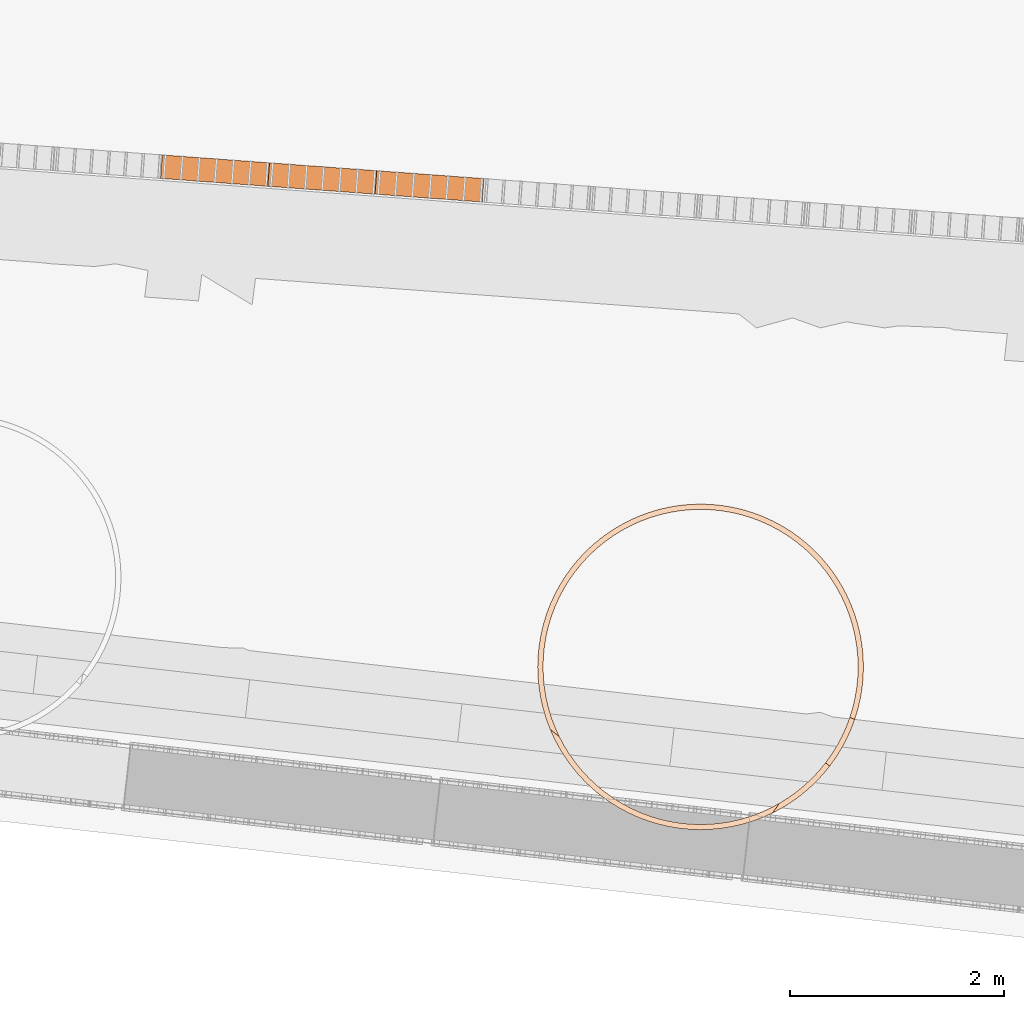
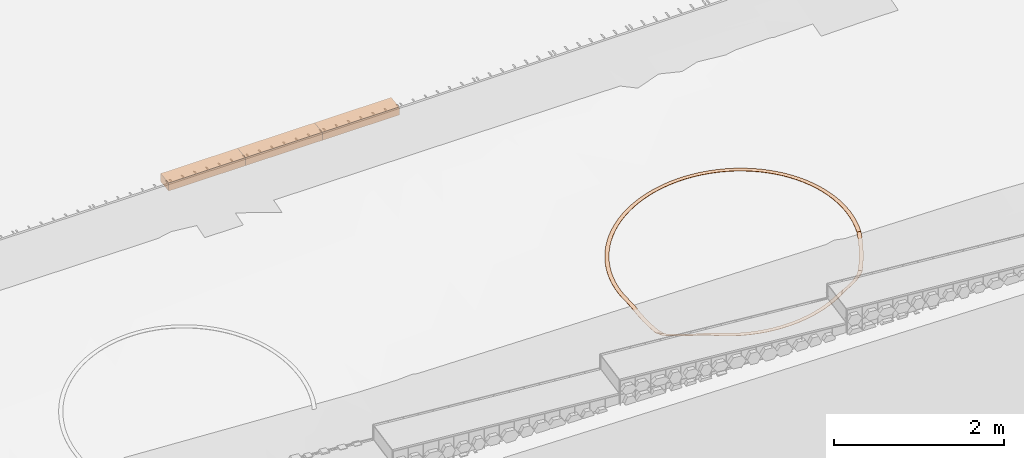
# Not in any storey, part 26 of 33: 3 proxies, 1 geographic element.
"""IFC4 model written with IfcOpenShell, lengths in metres."""

import ifcopenshell
import ifcopenshell.guid

model = None  # the IFC model being written
_history = None  # IfcOwnerHistory: only IFC2X3 demands one
_inside = {}  # id of a spatial element -> (the spatial element, [elements in it])
_under = {}  # id of a project, library or spatial element -> (it, [spatial elements below it])
_declared = {}  # id of a project -> (the project, [libraries it declares])
_typed = {}  # id of a type object -> (the type object, [elements of that type])
_made_of = {}  # id of a material, layer set ... -> (it, [elements and type objects made of it])


def new_model(schema):
    """Start an empty IFC model of exactly this schema.

    Asked for "IFC4X3", IfcOpenShell would pick the latest addendum, in which some entities
    have other attributes; the version numbers below select the first issue.
    IFC2X3 requires an IfcOwnerHistory on every rooted entity: one is made here for all.
    """
    global model, _history
    if schema == "IFC4X3":
        model = ifcopenshell.file(schema_version=(4, 3, 0, 0))
    else:
        model = ifcopenshell.file(schema=schema)
    _inside.clear()
    _under.clear()
    _declared.clear()
    _typed.clear()
    _made_of.clear()
    _history = None
    if model.schema == "IFC2X3":
        org = make("IfcOrganization", Name="unknown")
        user = make(
            "IfcPersonAndOrganization",
            ThePerson=make("IfcPerson", FamilyName="unknown"),
            TheOrganization=org,
        )
        app = make(
            "IfcApplication",
            ApplicationDeveloper=org,
            Version="unknown",
            ApplicationFullName="unknown",
            ApplicationIdentifier="unknown",
        )
        _history = make(
            "IfcOwnerHistory",
            OwningUser=user,
            OwningApplication=app,
            ChangeAction="ADDED",
            CreationDate=0,
        )
    return model


def make(cls, **values):
    """One entity of the class cls with the attributes given. An attribute that is None is left unset."""
    return model.create_entity(
        cls, **{name: value for name, value in values.items() if value is not None}
    )


def rooted(cls, **values):
    """An entity with a GlobalId (a new one), such as an element, a storey or a relation."""
    return make(cls, GlobalId=ifcopenshell.guid.new(), OwnerHistory=_history, **values)


def si_unit(unit_type, name, prefix=None):
    """IfcSIUnit, for example si_unit("LENGTHUNIT", "METRE", prefix="MILLI")."""
    return make("IfcSIUnit", UnitType=unit_type, Prefix=prefix, Name=name)


def assignment(units):
    """IfcUnitAssignment: the units of a project."""
    return None if units is None else make("IfcUnitAssignment", Units=units)


def point(xyz):
    """IfcCartesianPoint."""
    return None if xyz is None else make("IfcCartesianPoint", Coordinates=xyz)


def direction(xyz):
    """IfcDirection."""
    return None if xyz is None else make("IfcDirection", DirectionRatios=xyz)


def frame(location, z_axis=None, x_axis=None):
    """IfcAxis2Placement3D, a coordinate frame: its origin and axes. An axis left out is left unset."""
    return make(
        "IfcAxis2Placement3D",
        Location=point(location),
        Axis=direction(z_axis),
        RefDirection=direction(x_axis),
    )


def origin_with_axes():
    """The frame at (0, 0, 0) with the z axis (0, 0, 1) and the x axis (1, 0, 0) written out."""
    return frame((0.0, 0.0, 0.0), z_axis=(0.0, 0.0, 1.0), x_axis=(1.0, 0.0, 0.0))


def place(relative_to, where):
    """IfcLocalPlacement: puts the frame where relative to a parent placement (None: the world)."""
    return make(
        "IfcLocalPlacement", PlacementRelTo=relative_to, RelativePlacement=where
    )


def context(
    kind, dimensions, precision=None, world=None, true_north=None, identifier=None
):
    """IfcGeometricRepresentationContext, for example the 3D "Model" context."""
    return make(
        "IfcGeometricRepresentationContext",
        ContextIdentifier=identifier,
        ContextType=kind,
        CoordinateSpaceDimension=dimensions,
        Precision=precision,
        WorldCoordinateSystem=world,
        TrueNorth=true_north,
    )


def subcontext(parent, identifier, kind, view, scale=None):
    """IfcGeometricRepresentationSubContext, for example "Body" below "Model"."""
    return make(
        "IfcGeometricRepresentationSubContext",
        ContextIdentifier=identifier,
        ContextType=kind,
        ParentContext=parent,
        TargetScale=scale,
        TargetView=view,
    )


def project(units=None, contexts=None):
    """IfcProject with its units and contexts."""
    return rooted(
        "IfcProject",
        Name="project",
        RepresentationContexts=contexts,
        UnitsInContext=assignment(units),
    )


def spatial(cls, under=None, at=None, **own):
    """A site, building, storey or space (cls), placed at a placement, below another one or the project."""
    s = rooted(cls, ObjectPlacement=at, **own)
    if under is not None:
        _under.setdefault(under.id(), (under, []))[1].append(s)
    return s


def point_list(points):
    """IfcCartesianPointList2D or 3D."""
    cls = (
        "IfcCartesianPointList2D" if len(points[0]) == 2 else "IfcCartesianPointList3D"
    )
    return make(cls, CoordList=points)


def polygons(points, faces, closed=None, point_numbers=None):
    """IfcPolygonalFaceSet: a face is its outer loop, then its inner loops; points numbered from 1."""
    made = []
    for loops in faces:
        if len(loops) == 1:
            made.append(make("IfcIndexedPolygonalFace", CoordIndex=loops[0]))
        else:
            made.append(
                make(
                    "IfcIndexedPolygonalFaceWithVoids",
                    CoordIndex=loops[0],
                    InnerCoordIndices=loops[1:],
                )
            )
    return make(
        "IfcPolygonalFaceSet",
        Coordinates=point_list(points),
        Closed=closed,
        Faces=made,
        PnIndex=point_numbers,
    )


def shape(context_of_items, identifier, shape_type, items):
    """IfcShapeRepresentation: the items that make up one representation, for example the "Body"."""
    return make(
        "IfcShapeRepresentation",
        ContextOfItems=context_of_items,
        RepresentationIdentifier=identifier,
        RepresentationType=shape_type,
        Items=items,
    )


def material(Name=None, Category=None):
    """IfcMaterial."""
    return make("IfcMaterial", Name=Name, Category=Category)


def made_of(thing, what):
    """Note that an element or type object is made of a material, layer set ...; save() writes the relation."""
    if what is not None:
        _made_of.setdefault(what.id(), (what, []))[1].append(thing)
    return thing


def element(
    cls,
    number,
    at=None,
    inside=None,
    cuts=None,
    type_object=None,
    material=None,
    context=None,
    identifier="Body",
    shape_type=None,
    held_by="IfcProductDefinitionShape",
    body=None,
    shapes=None,
    **own,
):
    """One element of the class cls, such as IfcWall. Its Tag is "e" and its number.

    at: its placement. inside: the storey or other place that contains it. cuts: it is an
    opening in that element (IfcRelVoidsElement). A single representation is given by context,
    identifier, shape_type and body (its items); several are given by shapes. held_by: the class
    of the entity that holds the representations. save() writes the other relations.
    """
    e = rooted(cls, Tag="e%d" % number, ObjectPlacement=at, **own)
    if body is not None:
        shapes = [shape(context, identifier, shape_type, body)]
    if shapes is not None:
        e.Representation = make(held_by, Representations=shapes)
    if inside is not None:
        _inside.setdefault(inside.id(), (inside, []))[1].append(e)
    if cuts is not None:
        rooted(
            "IfcRelVoidsElement", RelatingBuildingElement=cuts, RelatedOpeningElement=e
        )
    if type_object is not None:
        _typed.setdefault(type_object.id(), (type_object, []))[1].append(e)
    return made_of(e, material)


def aggregate(whole, parts):
    """IfcRelAggregates: a whole, such as a stair, and the parts it consists of."""
    return rooted("IfcRelAggregates", RelatingObject=whole, RelatedObjects=parts)


def save(model, path):
    """Write the relations noted so far, then the file.

    IfcRelAggregates (storeys below a building ...), IfcRelContainedInSpatialStructure (elements
    in a storey), IfcRelDefinesByType, IfcRelAssociatesMaterial and IfcRelDeclares: one each for
    every whole, place, type object, material and project.
    """
    for whole, parts in _under.values():
        aggregate(whole, parts)
    for where, things in _inside.values():
        rooted(
            "IfcRelContainedInSpatialStructure",
            RelatedElements=things,
            RelatingStructure=where,
        )
    for kind, things in _typed.values():
        rooted("IfcRelDefinesByType", RelatedObjects=things, RelatingType=kind)
    for what, things in _made_of.values():
        rooted("IfcRelAssociatesMaterial", RelatedObjects=things, RelatingMaterial=what)
    for by, libraries in _declared.values():
        rooted("IfcRelDeclares", RelatingContext=by, RelatedDefinitions=libraries)
    model.write(path)


model = new_model("IFC4")

# Units and contexts
model_context = context("Model", 3, precision=1e-05, world=origin_with_axes(), true_north=direction((0.0, 1.0)))
body_context = subcontext(model_context, "Body", "Model", "MODEL_VIEW")
ifc_project = project(units=[si_unit("LENGTHUNIT", "METRE"), si_unit("AREAUNIT", "SQUARE_METRE"), si_unit("VOLUMEUNIT", "CUBIC_METRE")], contexts=[model_context])

# Site
site_placement = place(None, origin_with_axes())
site = spatial("IfcSite", under=ifc_project, at=site_placement, Name="Lares · Rua das Mercês · artigo 4771")

# Proxies
ifc_material_1 = material(Name="Brita drenante", Category="stone")
proxy_1_placement = place(site_placement, frame((0.0, 0.0, 0.0), z_axis=(0.0, 0.0, 1.0), x_axis=(1.0, -1.03767253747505e-17, 0.0)))
element("IfcBuildingElementProxy", 1, at=proxy_1_placement, inside=site, material=ifc_material_1, Name="Acesso · dreno lateral raso · leito drenante", ObjectType="Acesso · dreno lateral raso · leito drenante", PredefinedType="USERDEFINED", context=body_context, shape_type="Tessellation", body=[
    polygons([(62.7145313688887, 2.04031172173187, 14.8471006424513), (62.7306585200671, 2.25971982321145, 14.8471006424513), (63.7347606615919, 2.18591531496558, 14.9054084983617), (63.7186335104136, 1.96650721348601, 14.9054084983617), (62.7145313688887, 2.04031172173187, 14.9621006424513), (62.7306585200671, 2.25971982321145, 14.9621006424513), (63.7347606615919, 2.18591531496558, 15.0204084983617), (63.7186335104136, 1.96650721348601, 15.0204084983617)], [[[4, 3, 2, 1]], [[5, 6, 7, 8]], [[1, 2, 6, 5]], [[2, 3, 7, 6]], [[3, 4, 8, 7]], [[4, 1, 5, 8]]]),
])
proxy_2_placement = place(site_placement, frame((0.0, 0.0, 0.0), z_axis=(0.0, 0.0, 1.0), x_axis=(1.0, -1.03767253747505e-17, 0.0)))
element("IfcBuildingElementProxy", 2, at=proxy_2_placement, inside=site, material=ifc_material_1, Name="Acesso · dreno lateral raso · leito drenante", ObjectType="Acesso · dreno lateral raso · leito drenante", PredefinedType="USERDEFINED", context=body_context, shape_type="Tessellation", body=[
    polygons([(63.7186335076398, 1.96650721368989, 14.9054084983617), (63.7347606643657, 2.1859153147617, 14.9054084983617), (64.7388567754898, 2.11211122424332, 14.9637160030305), (64.7227296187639, 1.89270312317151, 14.9637160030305), (63.7186335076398, 1.96650721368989, 15.0204084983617), (63.7347606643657, 2.1859153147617, 15.0204084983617), (64.7388567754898, 2.11211122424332, 15.0787160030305), (64.7227296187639, 1.89270312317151, 15.0787160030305)], [[[4, 3, 2, 1]], [[5, 6, 7, 8]], [[1, 2, 6, 5]], [[2, 3, 7, 6]], [[3, 4, 8, 7]], [[4, 1, 5, 8]]]),
])
proxy_3_placement = place(site_placement, frame((0.0, 0.0, 0.0), z_axis=(0.0, 0.0, 1.0), x_axis=(1.0, -1.03767253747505e-17, 0.0)))
element("IfcBuildingElementProxy", 3, at=proxy_3_placement, inside=site, material=ifc_material_1, Name="Acesso · dreno lateral raso · leito drenante", ObjectType="Acesso · dreno lateral raso · leito drenante", PredefinedType="USERDEFINED", context=body_context, shape_type="Tessellation", body=[
    polygons([(64.7227296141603, 1.89270312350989, 14.9637160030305), (64.7388567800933, 2.11211122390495, 14.9637160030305), (65.7429465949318, 2.03830755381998, 15.0220231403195), (65.7268194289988, 1.81889945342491, 15.0220231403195), (64.7227296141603, 1.89270312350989, 15.0787160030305), (64.7388567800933, 2.11211122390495, 15.0787160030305), (65.7429465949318, 2.03830755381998, 15.1370231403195), (65.7268194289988, 1.81889945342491, 15.1370231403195)], [[[4, 3, 2, 1]], [[5, 6, 7, 8]], [[1, 2, 6, 5]], [[2, 3, 7, 6]], [[3, 4, 8, 7]], [[4, 1, 5, 8]]]),
])

# Geographic element
ifc_material_2 = material(Name="Marcação de plantação · linha no terreno", Category="stone")
geographic_element_placement = place(site_placement, frame((0.0, 0.0, 0.0), z_axis=(0.0, 0.0, 1.0), x_axis=(1.0, -1.03767253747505e-17, 0.0)))
element("IfcGeographicElement", 4, at=geographic_element_placement, inside=site, material=ifc_material_2, Name="Marcação no solo · árvore indicativa 09", ObjectType="Marcação no solo · árvore indicativa 09", PredefinedType="USERDEFINED", context=body_context, shape_type="Tessellation", body=[
    polygons([(69.2462761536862, -2.53447641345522, 15.0896304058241), (69.2462761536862, -2.53447641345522, 15.0936304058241), (69.2962761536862, -2.53447641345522, 15.0936963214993), (69.2962761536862, -2.53447641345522, 15.0976963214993), (69.2431180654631, -2.43800679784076, 15.0949717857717), (69.2431180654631, -2.43800679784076, 15.0989717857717), (69.2930110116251, -2.43473664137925, 15.099218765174), (69.2930110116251, -2.43473664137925, 15.103218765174), (69.2336573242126, -2.34195027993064, 15.0997766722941), (69.2336573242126, -2.34195027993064, 15.1037766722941), (69.2832295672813, -2.33542397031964, 15.1041865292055), (69.2832295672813, -2.33542397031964, 15.1081865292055), (69.2179344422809, -2.24671818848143, 15.1040244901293), (69.2179344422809, -2.24671818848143, 15.1080244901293), (69.2669737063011, -2.23696367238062, 15.1085783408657), (69.2669737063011, -2.23696367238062, 15.1125783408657), (69.1960167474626, -2.152718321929, 15.1076970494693), (69.1960167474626, -2.152718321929, 15.1116970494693), (69.244313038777, -2.13977736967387, 15.1123753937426), (69.244313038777, -2.13977736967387, 15.1163753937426), (69.1679980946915, -2.06035320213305, 15.1107786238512), (69.1679980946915, -2.06035320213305, 15.1147786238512), (69.2153446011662, -2.0442812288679, 15.115561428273), (69.2153446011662, -2.0442812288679, 15.119561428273), (69.1339984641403, -1.97001835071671, 15.1132560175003), (69.1339984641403, -1.97001835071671, 15.1172560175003), (69.1801924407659, -1.95088417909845, 15.1181228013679), (69.1801924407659, -1.95088417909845, 15.1221228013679), (69.0941634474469, -1.88210059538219, 15.1151186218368), (69.0941634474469, -1.88210059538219, 15.1191186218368), (69.1390070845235, -1.85998616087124, 15.1200485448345), (69.1390070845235, -1.85998616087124, 15.1240485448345), (69.0486636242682, -1.79697641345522, 15.116358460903), (69.0486636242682, -1.79697641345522, 15.120358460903), (69.0919648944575, -1.77197641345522, 15.1213304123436), (69.0919648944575, -1.77197641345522, 15.1253304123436), (68.9976938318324, -1.7150103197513, 15.1169702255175), (68.9976938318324, -1.7150103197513, 15.1209702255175), (69.0392673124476, -1.68723180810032, 15.1219629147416), (69.0392673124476, -1.68723180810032, 15.1259629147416), (68.9414723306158, -1.63655330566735, 15.1169512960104), (68.9414723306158, -1.63655330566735, 15.1209512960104), (68.9811399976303, -1.60611523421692, 15.1219433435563), (68.9811399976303, -1.60611523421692, 15.1259433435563), (68.8802398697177, -1.56194133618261, 15.1163017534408), (68.8802398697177, -1.56194133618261, 15.1203017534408), (68.9178318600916, -1.52897404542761, 15.1212717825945), (68.9178318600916, -1.52897404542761, 15.1252717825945), (68.8142586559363, -1.49149391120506, 15.1150243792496), (68.8142586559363, -1.49149391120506, 15.1190243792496), (68.8496139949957, -1.45613857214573, 15.1199511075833), (68.8496139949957, -1.45613857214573, 15.1239511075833), (68.7438112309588, -1.42551269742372, 15.1131246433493), (68.7438112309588, -1.42551269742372, 15.1171246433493), (68.7767785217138, -1.38792070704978, 15.1179869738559), (68.7767785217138, -1.38792070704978, 15.1219869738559), (68.669199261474, -1.36428023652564, 15.1106106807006), (68.669199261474, -1.36428023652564, 15.1146106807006), (68.6996373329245, -1.32461256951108, 15.1153877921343), (68.6996373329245, -1.32461256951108, 15.1193877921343), (68.5907422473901, -1.30805873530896, 15.1074932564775), (68.5907422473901, -1.30805873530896, 15.1114932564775), (68.6185207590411, -1.26648525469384, 15.1121646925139), (68.6185207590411, -1.26648525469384, 15.1161646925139), (68.5087761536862, -1.25708894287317, 15.1037857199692), (68.5087761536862, -1.25708894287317, 15.1077857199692), (68.5337761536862, -1.21378767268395, 15.1083314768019), (68.5337761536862, -1.21378767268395, 15.1123314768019), (68.4236519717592, -1.2115891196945, 15.0995039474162), (68.4236519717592, -1.2115891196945, 15.1035039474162), (68.4457664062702, -1.16674548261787, 15.1039045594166), (68.4457664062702, -1.16674548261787, 15.1079045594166), (68.3357342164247, -1.17175410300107, 15.0946662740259), (68.3357342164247, -1.17175410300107, 15.0986662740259), (68.3548683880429, -1.1255601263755, 15.0989028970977), (68.3548683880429, -1.1255601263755, 15.1029028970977), (68.2453993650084, -1.13775447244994, 15.0892934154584), (68.2453993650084, -1.13775447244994, 15.0932934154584), (68.2614713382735, -1.09040796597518, 15.0933479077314), (68.2614713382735, -1.09040796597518, 15.0973479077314), (68.1530342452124, -1.10973581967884, 15.083408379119), (68.1530342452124, -1.10973581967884, 15.087408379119), (68.1659751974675, -1.06143952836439, 15.0872633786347), (68.1659751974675, -1.06143952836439, 15.0912633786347), (68.05903437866, -1.08781812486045, 15.0770363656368), (68.05903437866, -1.08781812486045, 15.0810363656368), (68.0687888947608, -1.03877886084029, 15.0806753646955), (68.0687888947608, -1.03877886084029, 15.0846753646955), (67.9638022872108, -1.07209524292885, 15.0702046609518), (67.9638022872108, -1.07209524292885, 15.0742046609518), (67.9703285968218, -1.02252299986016, 15.0736120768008), (67.9703285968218, -1.02252299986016, 15.0776120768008), (67.8677457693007, -1.06263450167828, 15.0629425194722), (67.8677457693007, -1.06263450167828, 15.0669425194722), (67.8710159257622, -1.01274155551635, 15.0661037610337), (67.8710159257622, -1.01274155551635, 15.0701037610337), (67.7712761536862, -1.05947641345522, 15.0552810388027), (67.7712761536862, -1.05947641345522, 15.0592810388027), (67.7712761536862, -1.00947641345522, 15.0581825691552), (67.7712761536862, -1.00947641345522, 15.0621825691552), (67.6748065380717, -1.06263450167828, 15.0472530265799), (67.6748065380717, -1.06263450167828, 15.0512530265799), (67.6715363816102, -1.01274155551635, 15.0498824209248), (67.6715363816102, -1.01274155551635, 15.0538824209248), (67.5787500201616, -1.07209524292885, 15.0388928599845), (67.5787500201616, -1.07209524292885, 15.0428928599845), (67.5722237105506, -1.02252299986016, 15.0412388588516), (67.5722237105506, -1.02252299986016, 15.0452388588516), (67.4835179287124, -1.08781812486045, 15.0302363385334), (67.4835179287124, -1.08781812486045, 15.0342363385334), (67.4737634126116, -1.03877886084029, 15.0322888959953), (67.4737634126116, -1.03877886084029, 15.0362888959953), (67.38951806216, -1.10973581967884, 15.0213205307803), (67.38951806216, -1.10973581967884, 15.0253205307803), (67.3765771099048, -1.06143952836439, 15.023070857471), (67.3765771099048, -1.06143952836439, 15.027070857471), (67.297152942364, -1.13775447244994, 15.012183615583), (67.297152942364, -1.13775447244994, 15.0161836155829), (67.2810809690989, -1.09040796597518, 15.0136242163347), (67.2810809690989, -1.09040796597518, 15.0176242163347), (67.2068180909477, -1.17175410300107, 15.0028647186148), (67.2068180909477, -1.17175410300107, 15.0068647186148), (67.1876839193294, -1.1255601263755, 15.0039894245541), (67.1876839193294, -1.1255601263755, 15.0079894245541), (67.1189003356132, -1.2115891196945, 14.9934037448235), (67.1189003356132, -1.2115891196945, 14.9974037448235), (67.0967859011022, -1.16674548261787, 14.9942077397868), (67.0967859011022, -1.16674548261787, 14.9982077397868), (67.0337761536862, -1.25708894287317, 14.9838412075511), (67.0337761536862, -1.25708894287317, 14.9878412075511), (67.0087761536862, -1.21378767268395, 14.9843210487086), (67.0087761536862, -1.21378767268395, 14.9883210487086), (66.9518100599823, -1.30805873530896, 14.9742180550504), (66.9518100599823, -1.30805873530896, 14.9782180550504), (66.9240315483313, -1.26648525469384, 14.9743716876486), (66.9240315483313, -1.26648525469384, 14.9783716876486), (66.8733530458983, -1.36428023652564, 14.9645754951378), (66.8733530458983, -1.36428023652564, 14.9685754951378), (66.8429149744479, -1.32461256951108, 14.9644022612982), (66.8429149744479, -1.32461256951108, 14.9684022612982), (66.7987410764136, -1.42551269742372, 14.9549548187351), (66.7987410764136, -1.42551269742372, 14.9589548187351), (66.7657737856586, -1.38792070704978, 14.9544554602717), (66.7657737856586, -1.38792070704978, 14.9584554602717), (66.728293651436, -1.49149391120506, 14.9453972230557), (66.728293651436, -1.49149391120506, 14.9493972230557), (66.6929383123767, -1.45613857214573, 14.9445738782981), (66.6929383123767, -1.45613857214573, 14.9485738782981), (66.6623124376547, -1.56194133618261, 14.9359436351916), (66.6623124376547, -1.56194133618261, 14.9399436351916), (66.6247204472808, -1.52897404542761, 14.9347998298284), (66.6247204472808, -1.52897404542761, 14.9387998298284), (66.6010799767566, -1.63655330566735, 14.9266345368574), (66.6010799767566, -1.63655330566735, 14.9306345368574), (66.5614123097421, -1.60611523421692, 14.9251751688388), (66.5614123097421, -1.60611523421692, 14.9291751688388), (66.5448584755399, -1.7150103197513, 14.9175097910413), (66.5448584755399, -1.7150103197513, 14.9215097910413), (66.5032849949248, -1.68723180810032, 14.9157411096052), (66.5032849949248, -1.68723180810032, 14.9197411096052), (66.4938886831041, -1.79697641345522, 14.9086084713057), (66.4938886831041, -1.79697641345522, 14.9126084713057), (66.4505874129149, -1.77197641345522, 14.9065380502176), (66.4505874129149, -1.77197641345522, 14.9105380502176), (66.4483888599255, -1.88210059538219, 14.8999686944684), (66.4483888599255, -1.88210059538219, 14.9039686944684), (66.4035452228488, -1.85998616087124, 14.8976053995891), (66.4035452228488, -1.85998616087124, 14.9016053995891), (66.408553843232, -1.97001835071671, 14.89162745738), (66.408553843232, -1.97001835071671, 14.89562745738), (66.3623598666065, -1.95088417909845, 14.8889814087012), (66.3623598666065, -1.95088417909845, 14.8929814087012), (66.3745542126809, -2.06035320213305, 14.8836204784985), (66.3745542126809, -2.06035320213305, 14.8876204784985), (66.3272077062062, -2.04428122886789, 14.8807030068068), (66.3272077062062, -2.04428122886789, 14.8847030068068), (66.3465355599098, -2.152718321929, 14.8759820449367), (66.3465355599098, -2.152718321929, 14.8799820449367), (66.2982392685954, -2.13977736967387, 14.8728056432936), (66.2982392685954, -2.13977736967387, 14.8768056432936), (66.3246178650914, -2.24671818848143, 14.8687448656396), (66.3246178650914, -2.24671818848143, 14.8727448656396), (66.2755786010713, -2.23696367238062, 14.8653231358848), (66.2755786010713, -2.23696367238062, 14.8693231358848), (66.3088949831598, -2.34195027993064, 14.8619399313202), (66.3088949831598, -2.34195027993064, 14.8659399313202), (66.2593227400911, -2.33542397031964, 14.8582875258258), (66.2593227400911, -2.33542397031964, 14.8622875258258), (66.2994342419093, -2.43800679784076, 14.8555963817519), (66.2994342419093, -2.43800679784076, 14.8595963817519), (66.2495412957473, -2.43473664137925, 14.8517289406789), (66.2495412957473, -2.43473664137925, 14.8557289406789), (66.2962761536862, -2.53447641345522, 14.8497413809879), (66.2962761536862, -2.53447641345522, 14.8537413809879), (66.2462761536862, -2.53447641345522, 14.8456754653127), (66.2462761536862, -2.53447641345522, 14.8496754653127), (66.2994342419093, -2.63094602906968, 14.8444000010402), (66.2994342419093, -2.63094602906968, 14.8484000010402), (66.2495412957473, -2.63421618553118, 14.840153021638), (66.2495412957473, -2.63421618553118, 14.844153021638), (66.3088949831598, -2.72700254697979, 14.8272731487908), (66.3088949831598, -2.72700254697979, 14.8312731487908), (66.2593227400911, -2.7335288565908, 14.8180293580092), (66.2593227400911, -2.7335288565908, 14.8220293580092), (66.3246178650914, -2.82223463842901, 14.7858868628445), (66.3246178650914, -2.82223463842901, 14.7898868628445), (66.2755786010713, -2.83198915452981, 14.7752401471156), (66.2755786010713, -2.83198915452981, 14.7792401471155), (66.3465355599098, -2.91623450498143, 14.7458455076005), (66.3465355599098, -2.91623450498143, 14.7498455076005), (66.2982392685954, -2.92917545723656, 14.7338414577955), (66.2982392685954, -2.92917545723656, 14.7378414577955), (66.3745542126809, -3.00859962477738, 14.7073205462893), (66.3745542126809, -3.00859962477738, 14.7113205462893), (66.3272077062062, -3.02467159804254, 14.6940105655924), (66.3272077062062, -3.02467159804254, 14.6980105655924), (66.408553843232, -3.09893447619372, 14.6704769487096), (66.408553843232, -3.09893447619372, 14.6744769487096), (66.3623598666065, -3.11806864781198, 14.6559180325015), (66.3623598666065, -3.11806864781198, 14.6599180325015), (66.4483888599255, -3.18685223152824, 14.6530338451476), (66.4483888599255, -3.18685223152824, 14.6570338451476), (66.4035452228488, -3.20896666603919, 14.6589195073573), (66.4035452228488, -3.20896666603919, 14.6629195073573), (66.4938886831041, -3.27197641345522, 14.6835696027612), (66.4938886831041, -3.27197641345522, 14.6875696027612), (66.4505874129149, -3.29697641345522, 14.6904903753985), (66.4505874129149, -3.29697641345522, 14.6944903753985), (66.5448584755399, -3.35394250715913, 14.7132311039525), (66.5448584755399, -3.35394250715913, 14.7172311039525), (66.5032849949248, -3.38172101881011, 14.7211573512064), (66.5032849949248, -3.38172101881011, 14.7251573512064), (66.6010799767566, -3.43239952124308, 14.7418913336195), (66.6010799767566, -3.43239952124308, 14.7458913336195), (66.5614123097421, -3.46283759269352, 14.7507891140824), (66.5614123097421, -3.46283759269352, 14.7547891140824), (66.6623124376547, -3.50701149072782, 14.7694275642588), (66.6623124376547, -3.50701149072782, 14.7734275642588), (66.6247204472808, -3.53997878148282, 14.7792587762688), (66.6247204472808, -3.53997878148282, 14.7832587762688), (66.728293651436, -3.57745891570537, 14.7957218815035), (66.728293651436, -3.57745891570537, 14.7997218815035), (66.6929383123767, -3.6128142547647, 14.8064444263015), (66.6929383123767, -3.6128142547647, 14.8104444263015), (66.7987410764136, -3.64344012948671, 14.8206616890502), (66.7987410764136, -3.64344012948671, 14.8246616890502), (66.7657737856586, -3.68103211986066, 14.8213848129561), (66.7657737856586, -3.68103211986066, 14.8253848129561), (66.8733530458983, -3.70467259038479, 14.8287611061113), (66.8733530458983, -3.70467259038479, 14.8327611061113), (66.8429149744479, -3.74434025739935, 14.8239839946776), (66.8429149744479, -3.74434025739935, 14.8279839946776), (66.9518100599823, -3.76089409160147, 14.8318785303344), (66.9518100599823, -3.76089409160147, 14.8358785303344), (66.9240315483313, -3.8024675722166, 14.8272070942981), (66.9240315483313, -3.8024675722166, 14.8312070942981), (67.0337761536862, -3.81186388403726, 14.8355860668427), (67.0337761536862, -3.81186388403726, 14.8395860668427), (67.0087761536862, -3.85516515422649, 14.83104031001), (67.0087761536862, -3.85516515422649, 14.83504031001), (67.1189003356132, -3.85736370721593, 14.8398678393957), (67.1189003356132, -3.85736370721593, 14.8438678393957), (67.0967859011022, -3.90220734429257, 14.8354672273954), (67.0967859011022, -3.90220734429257, 14.8394672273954), (67.2068180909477, -3.89719872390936, 14.8447055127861), (67.2068180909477, -3.89719872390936, 14.8487055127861), (67.1876839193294, -3.94339270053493, 14.8404688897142), (67.1876839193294, -3.94339270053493, 14.8444688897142), (67.297152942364, -3.9311983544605, 14.8500783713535), (67.297152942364, -3.9311983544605, 14.8540783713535), (67.2810809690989, -3.97854486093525, 14.8460238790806), (67.2810809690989, -3.97854486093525, 14.8500238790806), (67.38951806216, -3.95921700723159, 14.8559634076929), (67.38951806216, -3.95921700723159, 14.8599634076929), (67.3765771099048, -4.00751329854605, 14.8521084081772), (67.3765771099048, -4.00751329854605, 14.8561084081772), (67.4835179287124, -3.98113470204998, 14.8623354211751), (67.4835179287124, -3.98113470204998, 14.8663354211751), (67.4737634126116, -4.03017396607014, 14.8586964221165), (67.4737634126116, -4.03017396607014, 14.8626964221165), (67.5787500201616, -3.99685758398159, 14.8691671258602), (67.5787500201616, -3.99685758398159, 14.8731671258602), (67.5722237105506, -4.04642982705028, 14.8657597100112), (67.5722237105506, -4.04642982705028, 14.8697597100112), (67.6748065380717, -4.00631832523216, 14.8764292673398), (67.6748065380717, -4.00631832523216, 14.8804292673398), (67.6715363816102, -4.05621127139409, 14.8732680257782), (67.6715363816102, -4.05621127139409, 14.8772680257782), (67.7712761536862, -4.00947641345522, 14.8840907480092), (67.7712761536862, -4.00947641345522, 14.8880907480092), (67.7712761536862, -4.05947641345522, 14.8811892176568), (67.7712761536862, -4.05947641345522, 14.8851892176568), (67.8677457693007, -4.00631832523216, 14.892118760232), (67.8677457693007, -4.00631832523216, 14.896118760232), (67.8710159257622, -4.05621127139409, 14.8894893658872), (67.8710159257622, -4.05621127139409, 14.8934893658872), (67.9638022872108, -3.99685758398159, 14.9004789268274), (67.9638022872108, -3.99685758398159, 14.9044789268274), (67.9703285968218, -4.04642982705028, 14.8981329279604), (67.9703285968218, -4.04642982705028, 14.9021329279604), (68.05903437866, -3.98113470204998, 14.9091354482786), (68.05903437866, -3.98113470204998, 14.9131354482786), (68.0687888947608, -4.03017396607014, 14.9070828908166), (68.0687888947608, -4.03017396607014, 14.9110828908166), (68.1530342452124, -3.95921700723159, 14.9180512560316), (68.1530342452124, -3.95921700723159, 14.9220512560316), (68.1659751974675, -4.00751329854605, 14.916300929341), (68.1659751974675, -4.00751329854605, 14.920300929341), (68.2453993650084, -3.9311983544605, 14.927188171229), (68.2453993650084, -3.9311983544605, 14.931188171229), (68.2614713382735, -3.97854486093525, 14.9257475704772), (68.2614713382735, -3.97854486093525, 14.9297475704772), (68.3357342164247, -3.89719872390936, 14.9365070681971), (68.3357342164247, -3.89719872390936, 14.9405070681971), (68.3548683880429, -3.94339270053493, 14.9353823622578), (68.3548683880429, -3.94339270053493, 14.9393823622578), (68.4236519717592, -3.85736370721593, 14.9459680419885), (68.4236519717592, -3.85736370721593, 14.9499680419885), (68.4457664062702, -3.90220734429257, 14.9451640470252), (68.4457664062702, -3.90220734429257, 14.9491640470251), (68.5087761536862, -3.81186388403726, 14.9396084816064), (68.5087761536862, -3.81186388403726, 14.9436084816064), (68.5337761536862, -3.85516515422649, 14.9550507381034), (68.5337761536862, -3.85516515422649, 14.9590507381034), (68.5907422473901, -3.76089409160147, 14.9252702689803), (68.5907422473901, -3.76089409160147, 14.9292702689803), (68.6185207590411, -3.8024675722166, 14.9403842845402), (68.6185207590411, -3.8024675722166, 14.9443842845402), (68.669199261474, -3.70467259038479, 14.9090228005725), (68.669199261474, -3.70467259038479, 14.9130228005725), (68.6996373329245, -3.74434025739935, 14.9235860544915), (68.6996373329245, -3.74434025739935, 14.9275860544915), (68.7438112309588, -3.64344012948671, 14.8909356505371), (68.7438112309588, -3.64344012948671, 14.8949356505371), (68.7767785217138, -3.68103211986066, 14.904885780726), (68.7767785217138, -3.68103211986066, 14.908885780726), (68.8142586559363, -3.57745891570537, 14.8710862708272), (68.8142586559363, -3.57745891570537, 14.8750862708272), (68.8496139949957, -3.6128142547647, 14.8843635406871), (68.8496139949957, -3.6128142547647, 14.8883635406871), (68.8802398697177, -3.50701149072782, 14.8495596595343), (68.8802398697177, -3.50701149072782, 14.8535596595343), (68.9178318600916, -3.53997878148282, 14.862107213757), (68.9178318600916, -3.53997878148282, 14.866107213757), (68.9414723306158, -3.43239952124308, 14.8390265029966), (68.9414723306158, -3.43239952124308, 14.8430265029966), (68.9811399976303, -3.46283759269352, 14.8382121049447), (68.9811399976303, -3.46283759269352, 14.8422121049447), (68.9976938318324, -3.35394250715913, 14.8818737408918), (68.9976938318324, -3.35394250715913, 14.8858737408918), (69.0392673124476, -3.38172101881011, 14.874480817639), (69.0392673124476, -3.38172101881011, 14.878480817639), (69.0486636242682, -3.27197641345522, 14.9256548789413), (69.0486636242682, -3.27197641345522, 14.9296548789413), (69.0919648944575, -3.29697641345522, 14.9197460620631), (69.0919648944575, -3.29697641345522, 14.9237460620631), (69.0941634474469, -3.18685223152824, 14.9701824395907), (69.0941634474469, -3.18685223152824, 14.9741824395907), (69.1390070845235, -3.20896666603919, 14.9657830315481), (69.1390070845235, -3.20896666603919, 14.9697830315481), (69.1339984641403, -3.09893447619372, 15.0152657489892), (69.1339984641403, -3.09893447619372, 15.0192657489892), (69.1801924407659, -3.11806864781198, 15.0123945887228), (69.1801924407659, -3.11806864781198, 15.0163945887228), (69.1679980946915, -3.00859962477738, 15.0557513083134), (69.1679980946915, -3.00859962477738, 15.0597513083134), (69.2153446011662, -3.02467159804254, 15.0586687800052), (69.2153446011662, -3.02467159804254, 15.0626687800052), (69.1960167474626, -2.91623450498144, 15.0633897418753), (69.1960167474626, -2.91623450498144, 15.0673897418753), (69.244313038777, -2.92917545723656, 15.0665661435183), (69.244313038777, -2.92917545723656, 15.0705661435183), (69.2179344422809, -2.82223463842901, 15.0706269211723), (69.2179344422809, -2.82223463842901, 15.0746269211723), (69.2669737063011, -2.83198915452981, 15.0740486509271), (69.2669737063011, -2.83198915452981, 15.0780486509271), (69.2336573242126, -2.72700254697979, 15.0774318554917), (69.2336573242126, -2.72700254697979, 15.0814318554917), (69.2832295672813, -2.7335288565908, 15.0810842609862), (69.2832295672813, -2.7335288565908, 15.0850842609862), (69.2431180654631, -2.63094602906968, 15.08377540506), (69.2431180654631, -2.63094602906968, 15.08777540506), (69.2930110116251, -2.63421618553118, 15.0876428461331), (69.2930110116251, -2.63421618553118, 15.0916428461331)], [[[5, 7, 3, 1]], [[4, 8, 6, 2]], [[2, 6, 5, 1]], [[7, 8, 4, 3]], [[9, 11, 7, 5]], [[8, 12, 10, 6]], [[6, 10, 9, 5]], [[11, 12, 8, 7]], [[13, 15, 11, 9]], [[12, 16, 14, 10]], [[10, 14, 13, 9]], [[15, 16, 12, 11]], [[17, 19, 15, 13]], [[16, 20, 18, 14]], [[14, 18, 17, 13]], [[19, 20, 16, 15]], [[21, 23, 19, 17]], [[20, 24, 22, 18]], [[18, 22, 21, 17]], [[23, 24, 20, 19]], [[25, 27, 23, 21]], [[24, 28, 26, 22]], [[22, 26, 25, 21]], [[27, 28, 24, 23]], [[29, 31, 27, 25]], [[28, 32, 30, 26]], [[26, 30, 29, 25]], [[31, 32, 28, 27]], [[33, 35, 31, 29]], [[32, 36, 34, 30]], [[30, 34, 33, 29]], [[35, 36, 32, 31]], [[37, 39, 35, 33]], [[36, 40, 38, 34]], [[34, 38, 37, 33]], [[39, 40, 36, 35]], [[41, 43, 39, 37]], [[40, 44, 42, 38]], [[38, 42, 41, 37]], [[43, 44, 40, 39]], [[45, 47, 43, 41]], [[44, 48, 46, 42]], [[42, 46, 45, 41]], [[47, 48, 44, 43]], [[49, 51, 47, 45]], [[48, 52, 50, 46]], [[46, 50, 49, 45]], [[51, 52, 48, 47]], [[53, 55, 51, 49]], [[52, 56, 54, 50]], [[50, 54, 53, 49]], [[55, 56, 52, 51]], [[57, 59, 55, 53]], [[56, 60, 58, 54]], [[54, 58, 57, 53]], [[59, 60, 56, 55]], [[61, 63, 59, 57]], [[60, 64, 62, 58]], [[58, 62, 61, 57]], [[63, 64, 60, 59]], [[65, 67, 63, 61]], [[64, 68, 66, 62]], [[62, 66, 65, 61]], [[67, 68, 64, 63]], [[69, 71, 67, 65]], [[68, 72, 70, 66]], [[66, 70, 69, 65]], [[71, 72, 68, 67]], [[73, 75, 71, 69]], [[72, 76, 74, 70]], [[70, 74, 73, 69]], [[75, 76, 72, 71]], [[77, 79, 75, 73]], [[76, 80, 78, 74]], [[74, 78, 77, 73]], [[79, 80, 76, 75]], [[81, 83, 79, 77]], [[80, 84, 82, 78]], [[78, 82, 81, 77]], [[83, 84, 80, 79]], [[85, 87, 83, 81]], [[84, 88, 86, 82]], [[82, 86, 85, 81]], [[87, 88, 84, 83]], [[89, 91, 87, 85]], [[88, 92, 90, 86]], [[86, 90, 89, 85]], [[91, 92, 88, 87]], [[93, 95, 91, 89]], [[92, 96, 94, 90]], [[90, 94, 93, 89]], [[95, 96, 92, 91]], [[97, 99, 95, 93]], [[96, 100, 98, 94]], [[94, 98, 97, 93]], [[99, 100, 96, 95]], [[101, 103, 99, 97]], [[100, 104, 102, 98]], [[98, 102, 101, 97]], [[103, 104, 100, 99]], [[105, 107, 103, 101]], [[104, 108, 106, 102]], [[102, 106, 105, 101]], [[107, 108, 104, 103]], [[109, 111, 107, 105]], [[108, 112, 110, 106]], [[106, 110, 109, 105]], [[111, 112, 108, 107]], [[113, 115, 111, 109]], [[112, 116, 114, 110]], [[110, 114, 113, 109]], [[115, 116, 112, 111]], [[117, 119, 115, 113]], [[116, 120, 118, 114]], [[114, 118, 117, 113]], [[119, 120, 116, 115]], [[121, 123, 119, 117]], [[120, 124, 122, 118]], [[118, 122, 121, 117]], [[123, 124, 120, 119]], [[125, 127, 123, 121]], [[124, 128, 126, 122]], [[122, 126, 125, 121]], [[127, 128, 124, 123]], [[129, 131, 127, 125]], [[128, 132, 130, 126]], [[126, 130, 129, 125]], [[131, 132, 128, 127]], [[133, 135, 131, 129]], [[132, 136, 134, 130]], [[130, 134, 133, 129]], [[135, 136, 132, 131]], [[137, 139, 135, 133]], [[136, 140, 138, 134]], [[134, 138, 137, 133]], [[139, 140, 136, 135]], [[141, 143, 139, 137]], [[140, 144, 142, 138]], [[138, 142, 141, 137]], [[143, 144, 140, 139]], [[145, 147, 143, 141]], [[144, 148, 146, 142]], [[142, 146, 145, 141]], [[147, 148, 144, 143]], [[149, 151, 147, 145]], [[148, 152, 150, 146]], [[146, 150, 149, 145]], [[151, 152, 148, 147]], [[153, 155, 151, 149]], [[152, 156, 154, 150]], [[150, 154, 153, 149]], [[155, 156, 152, 151]], [[157, 159, 155, 153]], [[156, 160, 158, 154]], [[154, 158, 157, 153]], [[159, 160, 156, 155]], [[161, 163, 159, 157]], [[160, 164, 162, 158]], [[158, 162, 161, 157]], [[163, 164, 160, 159]], [[165, 167, 163, 161]], [[164, 168, 166, 162]], [[162, 166, 165, 161]], [[167, 168, 164, 163]], [[169, 171, 167, 165]], [[168, 172, 170, 166]], [[166, 170, 169, 165]], [[171, 172, 168, 167]], [[173, 175, 171, 169]], [[172, 176, 174, 170]], [[170, 174, 173, 169]], [[175, 176, 172, 171]], [[177, 179, 175, 173]], [[176, 180, 178, 174]], [[174, 178, 177, 173]], [[179, 180, 176, 175]], [[181, 183, 179, 177]], [[180, 184, 182, 178]], [[178, 182, 181, 177]], [[183, 184, 180, 179]], [[185, 187, 183, 181]], [[184, 188, 186, 182]], [[182, 186, 185, 181]], [[187, 188, 184, 183]], [[189, 191, 187, 185]], [[188, 192, 190, 186]], [[186, 190, 189, 185]], [[191, 192, 188, 187]], [[193, 195, 191, 189]], [[192, 196, 194, 190]], [[190, 194, 193, 189]], [[195, 196, 192, 191]], [[197, 199, 195, 193]], [[196, 200, 198, 194]], [[194, 198, 197, 193]], [[199, 200, 196, 195]], [[201, 203, 199, 197]], [[200, 204, 202, 198]], [[198, 202, 201, 197]], [[203, 204, 200, 199]], [[205, 207, 203, 201]], [[204, 208, 206, 202]], [[202, 206, 205, 201]], [[207, 208, 204, 203]], [[209, 211, 207, 205]], [[208, 212, 210, 206]], [[206, 210, 209, 205]], [[211, 212, 208, 207]], [[213, 215, 211, 209]], [[212, 216, 214, 210]], [[210, 214, 213, 209]], [[215, 216, 212, 211]], [[217, 219, 215, 213]], [[216, 220, 218, 214]], [[214, 218, 217, 213]], [[219, 220, 216, 215]], [[221, 223, 219, 217]], [[220, 224, 222, 218]], [[218, 222, 221, 217]], [[223, 224, 220, 219]], [[225, 227, 223, 221]], [[224, 228, 226, 222]], [[222, 226, 225, 221]], [[227, 228, 224, 223]], [[229, 231, 227, 225]], [[228, 232, 230, 226]], [[226, 230, 229, 225]], [[231, 232, 228, 227]], [[233, 235, 231, 229]], [[232, 236, 234, 230]], [[230, 234, 233, 229]], [[235, 236, 232, 231]], [[237, 239, 235, 233]], [[236, 240, 238, 234]], [[234, 238, 237, 233]], [[239, 240, 236, 235]], [[241, 243, 239, 237]], [[240, 244, 242, 238]], [[238, 242, 241, 237]], [[243, 244, 240, 239]], [[245, 247, 243, 241]], [[244, 248, 246, 242]], [[242, 246, 245, 241]], [[247, 248, 244, 243]], [[249, 251, 247, 245]], [[248, 252, 250, 246]], [[246, 250, 249, 245]], [[251, 252, 248, 247]], [[253, 255, 251, 249]], [[252, 256, 254, 250]], [[250, 254, 253, 249]], [[255, 256, 252, 251]], [[257, 259, 255, 253]], [[256, 260, 258, 254]], [[254, 258, 257, 253]], [[259, 260, 256, 255]], [[261, 263, 259, 257]], [[260, 264, 262, 258]], [[258, 262, 261, 257]], [[263, 264, 260, 259]], [[265, 267, 263, 261]], [[264, 268, 266, 262]], [[262, 266, 265, 261]], [[267, 268, 264, 263]], [[269, 271, 267, 265]], [[268, 272, 270, 266]], [[266, 270, 269, 265]], [[271, 272, 268, 267]], [[273, 275, 271, 269]], [[272, 276, 274, 270]], [[270, 274, 273, 269]], [[275, 276, 272, 271]], [[277, 279, 275, 273]], [[276, 280, 278, 274]], [[274, 278, 277, 273]], [[279, 280, 276, 275]], [[281, 283, 279, 277]], [[280, 284, 282, 278]], [[278, 282, 281, 277]], [[283, 284, 280, 279]], [[285, 287, 283, 281]], [[284, 288, 286, 282]], [[282, 286, 285, 281]], [[287, 288, 284, 283]], [[289, 291, 287, 285]], [[288, 292, 290, 286]], [[286, 290, 289, 285]], [[291, 292, 288, 287]], [[293, 295, 291, 289]], [[292, 296, 294, 290]], [[290, 294, 293, 289]], [[295, 296, 292, 291]], [[297, 299, 295, 293]], [[296, 300, 298, 294]], [[294, 298, 297, 293]], [[299, 300, 296, 295]], [[301, 303, 299, 297]], [[300, 304, 302, 298]], [[298, 302, 301, 297]], [[303, 304, 300, 299]], [[305, 307, 303, 301]], [[304, 308, 306, 302]], [[302, 306, 305, 301]], [[307, 308, 304, 303]], [[309, 311, 307, 305]], [[308, 312, 310, 306]], [[306, 310, 309, 305]], [[311, 312, 308, 307]], [[313, 315, 311, 309]], [[312, 316, 314, 310]], [[310, 314, 313, 309]], [[315, 316, 312, 311]], [[317, 319, 315, 313]], [[316, 320, 318, 314]], [[314, 318, 317, 313]], [[319, 320, 316, 315]], [[321, 323, 319, 317]], [[320, 324, 322, 318]], [[318, 322, 321, 317]], [[323, 324, 320, 319]], [[325, 327, 323, 321]], [[324, 328, 326, 322]], [[322, 326, 325, 321]], [[327, 328, 324, 323]], [[329, 331, 327, 325]], [[328, 332, 330, 326]], [[326, 330, 329, 325]], [[331, 332, 328, 327]], [[333, 335, 331, 329]], [[332, 336, 334, 330]], [[330, 334, 333, 329]], [[335, 336, 332, 331]], [[337, 339, 335, 333]], [[336, 340, 338, 334]], [[334, 338, 337, 333]], [[339, 340, 336, 335]], [[341, 343, 339, 337]], [[340, 344, 342, 338]], [[338, 342, 341, 337]], [[343, 344, 340, 339]], [[345, 347, 343, 341]], [[344, 348, 346, 342]], [[342, 346, 345, 341]], [[347, 348, 344, 343]], [[349, 351, 347, 345]], [[348, 352, 350, 346]], [[346, 350, 349, 345]], [[351, 352, 348, 347]], [[353, 355, 351, 349]], [[352, 356, 354, 350]], [[350, 354, 353, 349]], [[355, 356, 352, 351]], [[357, 359, 355, 353]], [[356, 360, 358, 354]], [[354, 358, 357, 353]], [[359, 360, 356, 355]], [[361, 363, 359, 357]], [[360, 364, 362, 358]], [[358, 362, 361, 357]], [[363, 364, 360, 359]], [[365, 367, 363, 361]], [[364, 368, 366, 362]], [[362, 366, 365, 361]], [[367, 368, 364, 363]], [[369, 371, 367, 365]], [[368, 372, 370, 366]], [[366, 370, 369, 365]], [[371, 372, 368, 367]], [[373, 375, 371, 369]], [[372, 376, 374, 370]], [[370, 374, 373, 369]], [[375, 376, 372, 371]], [[377, 379, 375, 373]], [[376, 380, 378, 374]], [[374, 378, 377, 373]], [[379, 380, 376, 375]], [[381, 383, 379, 377]], [[380, 384, 382, 378]], [[378, 382, 381, 377]], [[383, 384, 380, 379]], [[1, 3, 383, 381]], [[384, 4, 2, 382]], [[382, 2, 1, 381]], [[3, 4, 384, 383]]]),
])

save(model, "model.ifc")
